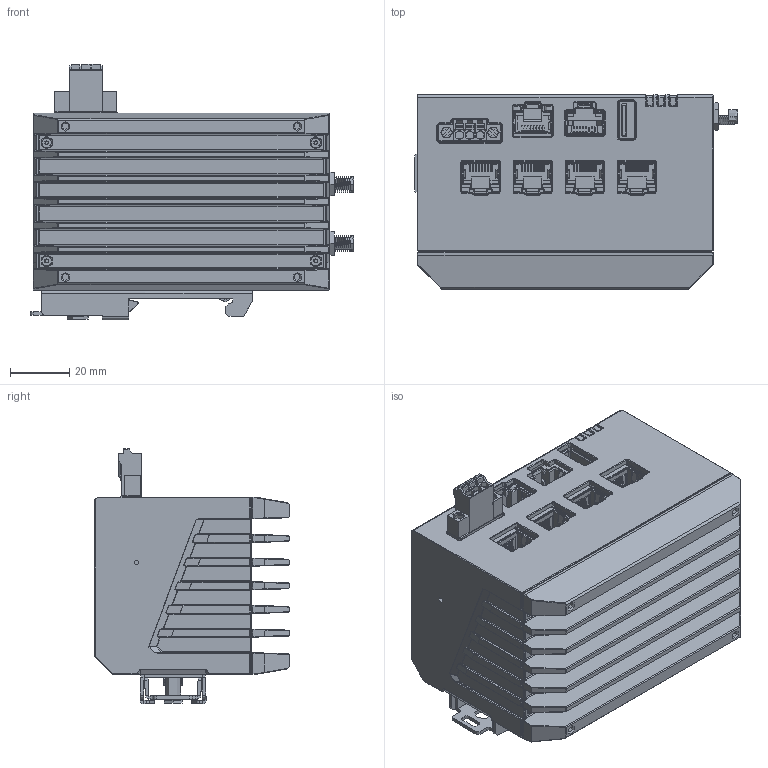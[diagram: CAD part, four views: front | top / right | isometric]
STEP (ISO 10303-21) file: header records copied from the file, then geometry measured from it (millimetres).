
FILE_DESCRIPTION((''),'2;1');
FILE_NAME('AWK_1165_T_DINRAIL_ASM','2024-04-01T16:03:01',('RositaCY_Yu'),('PTC'),'CREO PARAMETRIC BY PTC INC, 2023294','CREO PARAMETRIC BY PTC INC, 2023294','');
FILE_SCHEMA(('AUTOMOTIVE_DESIGN { 1 0 10303 214 1 1 1 1 }'));
Products named in the file (1): AWK_1165_T_DINRAIL_ASM
Bounding box: 109.3 x 65.8 x 86.58 mm (x, y, z)
Topology: 29 solids, 91 shells, 10871 faces, 30298 edges, 19116 vertices
Faces by surface type: plane 6506, cylinder 3141, bspline 399, cone 343, torus 253, sphere 212, extrusion 17
Full cylindrical faces by diameter (mm): 0.825 x2, 1.5 x3, 2.355 x2
Entity records: 406356 total; most frequent: CARTESIAN_POINT 102890, ORIENTED_EDGE 59716, DIRECTION 54102, EDGE_CURVE 30152, VECTOR 21672, LINE 21655, VERTEX_POINT 19140, AXIS2_PLACEMENT_3D 16215
